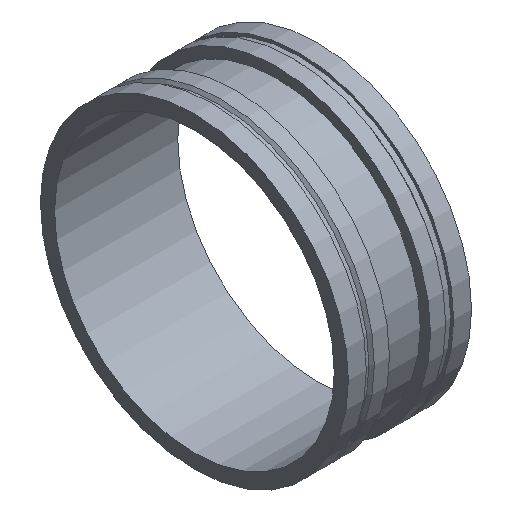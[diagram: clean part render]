
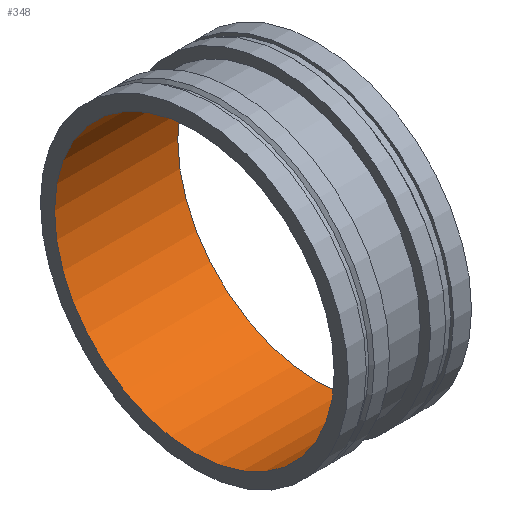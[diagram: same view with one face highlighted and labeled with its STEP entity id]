
A CAD part, isometric view. The second image highlights one B-rep face of the part: STEP entity #348.
In plain terms, the highlighted cylindrical face has radius 346.075 mm (diameter 692.15 mm), a full revolution.
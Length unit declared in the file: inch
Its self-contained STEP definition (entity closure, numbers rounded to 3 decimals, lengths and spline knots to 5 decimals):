
#56=LINE('',#654,#66);
#66=VECTOR('',#537,13.625);
#74=CYLINDRICAL_SURFACE('',#416,13.625);
#96=FACE_OUTER_BOUND('',#118,.T.);
#118=EDGE_LOOP('',(#303,#304,#305,#306,#307,#308));
#121=CIRCLE('',#372,13.625);
#122=CIRCLE('',#373,13.625);
#149=CIRCLE('',#414,13.625);
#150=CIRCLE('',#415,13.625);
#153=VERTEX_POINT('',#570);
#154=VERTEX_POINT('',#571);
#181=VERTEX_POINT('',#649);
#182=VERTEX_POINT('',#650);
#185=EDGE_CURVE('',#153,#154,#121,.T.);
#186=EDGE_CURVE('',#154,#153,#122,.T.);
#222=EDGE_CURVE('',#181,#182,#149,.T.);
#223=EDGE_CURVE('',#182,#181,#150,.T.);
#224=EDGE_CURVE('',#182,#154,#56,.T.);
#303=ORIENTED_EDGE('',*,*,#222,.T.);
#304=ORIENTED_EDGE('',*,*,#224,.T.);
#305=ORIENTED_EDGE('',*,*,#185,.F.);
#306=ORIENTED_EDGE('',*,*,#186,.F.);
#307=ORIENTED_EDGE('',*,*,#224,.F.);
#308=ORIENTED_EDGE('',*,*,#223,.T.);
#348=ADVANCED_FACE('',(#96),#74,.F.);
#372=AXIS2_PLACEMENT_3D('',#572,#438,#439);
#373=AXIS2_PLACEMENT_3D('',#573,#440,#441);
#414=AXIS2_PLACEMENT_3D('',#651,#531,#532);
#415=AXIS2_PLACEMENT_3D('',#652,#533,#534);
#416=AXIS2_PLACEMENT_3D('',#653,#535,#536);
#438=DIRECTION('center_axis',(1.,0.,0.));
#439=DIRECTION('ref_axis',(0.,0.,-1.));
#440=DIRECTION('center_axis',(1.,0.,0.));
#441=DIRECTION('ref_axis',(0.,0.,-1.));
#531=DIRECTION('center_axis',(1.,0.,0.));
#532=DIRECTION('ref_axis',(0.,0.,-1.));
#533=DIRECTION('center_axis',(1.,0.,0.));
#534=DIRECTION('ref_axis',(0.,0.,-1.));
#535=DIRECTION('center_axis',(1.,0.,0.));
#536=DIRECTION('ref_axis',(0.,1.,0.));
#537=DIRECTION('',(-1.,0.,0.));
#570=CARTESIAN_POINT('',(0.,13.625,0.));
#571=CARTESIAN_POINT('',(0.,-13.625,0.));
#572=CARTESIAN_POINT('Origin',(0.,0.,
0.));
#573=CARTESIAN_POINT('Origin',(0.,0.,
0.));
#649=CARTESIAN_POINT('',(12.,13.625,0.));
#650=CARTESIAN_POINT('',(12.,-13.625,0.));
#651=CARTESIAN_POINT('Origin',(12.,0.,0.));
#652=CARTESIAN_POINT('Origin',(12.,0.,0.));
#653=CARTESIAN_POINT('Origin',(6.,0.,0.));
#654=CARTESIAN_POINT('',(6.,-13.625,0.));
